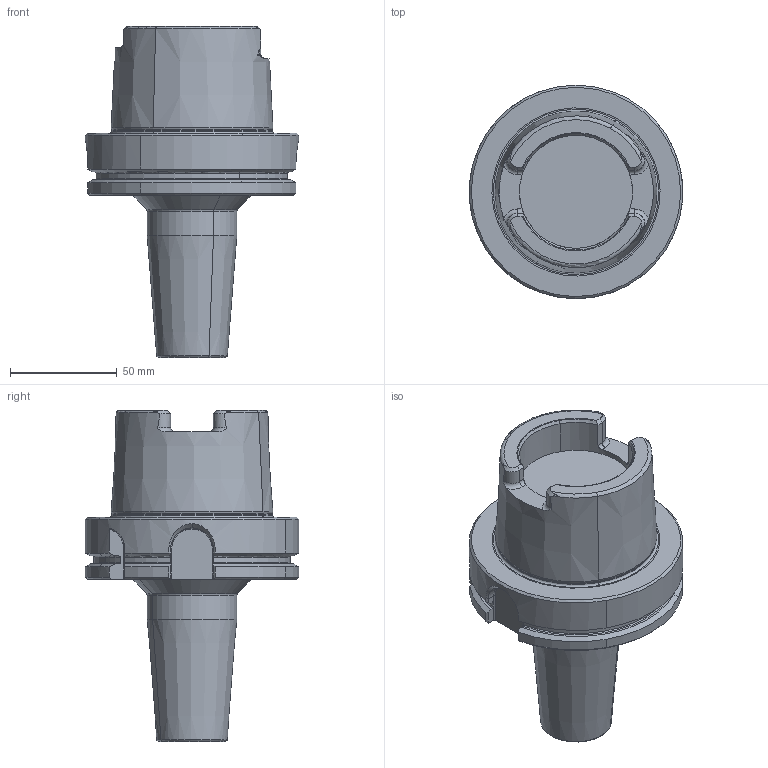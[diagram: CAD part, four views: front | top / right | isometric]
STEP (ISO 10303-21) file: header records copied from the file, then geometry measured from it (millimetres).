
FILE_DESCRIPTION(('CATIA V5 STEP','CAx-IF Rec.Pracs.--- Model Styling and Organization---1.2---2011-12-15'),'2;1');
FILE_NAME('\\nas01\drv1\utils\eitdev\rte\eit\transmagicconvert\db\out\4504221 L.stp','2014-04-06T08:28:09+00:00',('none'),('none'),'CATIA Version 5 Release 21 SP 5 (IN-10)','CATIA V5 STEP AP214','none');
FILE_SCHEMA(('AUTOMOTIVE_DESIGN { 1 0 10303 214 1 1 1 1 }'));
Length unit declared in the file: millimetre
Products named in the file (1): 60966390_0 Holder-Tool HSK A 100 SRKIN 20X105
Bounding box: 100 x 100 x 155 mm (x, y, z)
Volume: 477159 mm3; surface area: 47320.8 mm2
Topology: 1 solids, 1 shells, 161 faces, 414 edges, 258 vertices
Faces by surface type: plane 48, cylinder 38, cone 36, torus 35, bspline 2, extrusion 2
Entity records: 5080 total; most frequent: CARTESIAN_POINT 1633, ORIENTED_EDGE 828, DIRECTION 505, EDGE_CURVE 414, AXIS2_PLACEMENT_3D 270, VERTEX_POINT 258, CIRCLE 174, EDGE_LOOP 164
